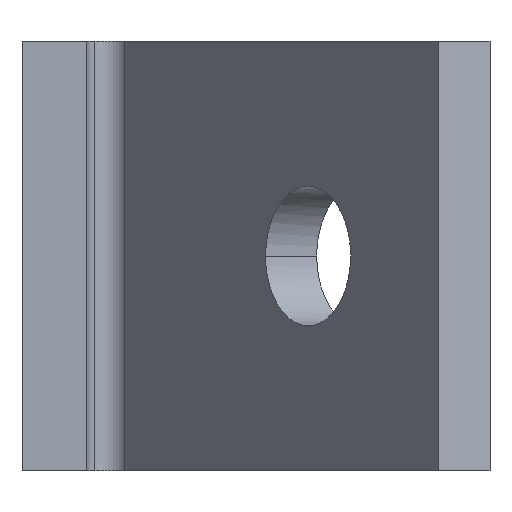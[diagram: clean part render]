
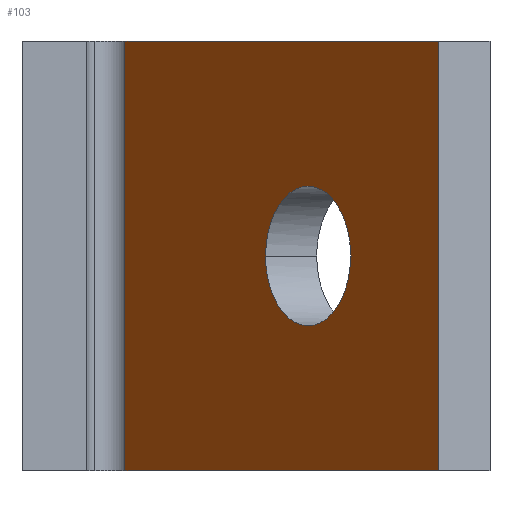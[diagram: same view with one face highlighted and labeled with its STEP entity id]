
A CAD part, left-side view. The second image highlights one B-rep face of the part: STEP entity #103.
In plain terms, the highlighted planar face has unit normal (-0.609, 0.793, 0).
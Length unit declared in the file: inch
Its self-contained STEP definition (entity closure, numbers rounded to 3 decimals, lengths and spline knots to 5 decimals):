
#75=EDGE_CURVE('',#193,#194,#195,.T.);
#93=EDGE_CURVE('',#224,#225,#226,.T.);
#103=ADVANCED_FACE('',(#239,#240),#241,.T.);
#117=EDGE_CURVE('',#193,#225,#263,.T.);
#131=EDGE_CURVE('',#194,#224,#278,.T.);
#193=VERTEX_POINT('',#346);
#194=VERTEX_POINT('',#347);
#195=LINE('',#348,#349);
#224=VERTEX_POINT('',#396);
#225=VERTEX_POINT('',#397);
#226=LINE('',#398,#399);
#239=FACE_BOUND('',#429,.T.);
#240=FACE_OUTER_BOUND('',#430,.T.);
#241=PLANE('',#431);
#263=LINE('',#471,#472);
#278=LINE('',#505,#506);
#346=CARTESIAN_POINT('',(2.0394,-0.11214,0.0));
#347=CARTESIAN_POINT('',(0.84937,-1.02528,0.0));
#348=CARTESIAN_POINT('',(2.0394,-0.11214,0.0));
#349=VECTOR('',#647,1.0);
#396=CARTESIAN_POINT('',(0.84937,-1.02528,1.25));
#397=CARTESIAN_POINT('',(2.0394,-0.11214,1.25));
#398=CARTESIAN_POINT('',(2.0394,-0.11214,1.25));
#399=VECTOR('',#679,1.0);
#429=EDGE_LOOP('',(#687,#688,#689,#690));
#430=EDGE_LOOP('',(#691,#692,#693,#694));
#431=AXIS2_PLACEMENT_3D('',#695,#696,#697);
#471=CARTESIAN_POINT('',(2.0394,-0.11214,0.0));
#472=VECTOR('',#714,1.0);
#505=CARTESIAN_POINT('',(0.84937,-1.02528,0.0));
#506=VECTOR('',#725,1.0);
#647=DIRECTION('',(-0.793,-0.609,0.0));
#679=DIRECTION('',(0.793,0.609,0.0));
#687=ORIENTED_EDGE('',*,*,#833,.T.);
#688=ORIENTED_EDGE('',*,*,#834,.T.);
#689=ORIENTED_EDGE('',*,*,#835,.T.);
#690=ORIENTED_EDGE('',*,*,#836,.T.);
#691=ORIENTED_EDGE('',*,*,#93,.T.);
#692=ORIENTED_EDGE('',*,*,#117,.F.);
#693=ORIENTED_EDGE('',*,*,#75,.T.);
#694=ORIENTED_EDGE('',*,*,#131,.T.);
#695=CARTESIAN_POINT('',(1.44438,-0.56871,0.0));
#696=DIRECTION('',(-0.609,0.793,0.0));
#697=DIRECTION('',(-0.793,-0.609,0.0));
#714=DIRECTION('',(0.0,0.0,1.0));
#725=DIRECTION('',(0.0,0.0,1.0));
#833=EDGE_CURVE('',#882,#883,#884,.T.);
#834=EDGE_CURVE('',#883,#885,#886,.T.);
#835=EDGE_CURVE('',#885,#887,#888,.T.);
#836=EDGE_CURVE('',#887,#882,#889,.T.);
#882=VERTEX_POINT('',#955);
#883=VERTEX_POINT('',#956);
#884=B_SPLINE_CURVE_WITH_KNOTS('',3,(#957,#958,#959,#960),.UNSPECIFIED.,.F.,.F.,(4,4),(-1.0,-0.0),.UNSPECIFIED.);
#885=VERTEX_POINT('',#961);
#886=B_SPLINE_CURVE_WITH_KNOTS('',3,(#962,#963,#964,#965),.UNSPECIFIED.,.F.,.F.,(4,4),(-1.0,-0.0),.UNSPECIFIED.);
#887=VERTEX_POINT('',#966);
#888=B_SPLINE_CURVE_WITH_KNOTS('',3,(#967,#968,#969,#970),.UNSPECIFIED.,.F.,.F.,(4,4),(-1.0,-0.0),.UNSPECIFIED.);
#889=B_SPLINE_CURVE_WITH_KNOTS('',3,(#971,#972,#973,#974),.UNSPECIFIED.,.F.,.F.,(4,4),(-1.0,-0.0),.UNSPECIFIED.);
#955=CARTESIAN_POINT('',(1.34522,-0.6448,0.82813));
#956=CARTESIAN_POINT('',(1.18407,-0.76846,0.625));
#957=CARTESIAN_POINT('',(1.34522,-0.6448,0.82813));
#958=CARTESIAN_POINT('',(1.25622,-0.71309,0.82813));
#959=CARTESIAN_POINT('',(1.18407,-0.76846,0.73718));
#960=CARTESIAN_POINT('',(1.18407,-0.76846,0.625));
#961=CARTESIAN_POINT('',(1.34522,-0.6448,0.42188));
#962=CARTESIAN_POINT('',(1.18407,-0.76846,0.625));
#963=CARTESIAN_POINT('',(1.18407,-0.76846,0.51282));
#964=CARTESIAN_POINT('',(1.25622,-0.71309,0.42188));
#965=CARTESIAN_POINT('',(1.34522,-0.6448,0.42188));
#966=CARTESIAN_POINT('',(1.50637,-0.52114,0.625));
#967=CARTESIAN_POINT('',(1.34522,-0.6448,0.42188));
#968=CARTESIAN_POINT('',(1.43421,-0.57651,0.42188));
#969=CARTESIAN_POINT('',(1.50637,-0.52114,0.51282));
#970=CARTESIAN_POINT('',(1.50637,-0.52114,0.625));
#971=CARTESIAN_POINT('',(1.50637,-0.52114,0.625));
#972=CARTESIAN_POINT('',(1.50637,-0.52114,0.73718));
#973=CARTESIAN_POINT('',(1.43421,-0.57651,0.82813));
#974=CARTESIAN_POINT('',(1.34522,-0.6448,0.82813));
